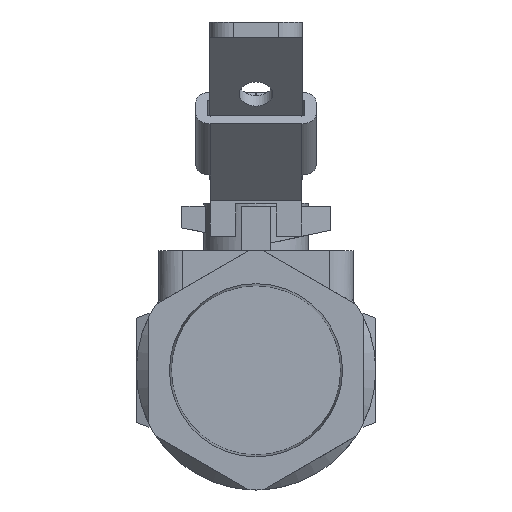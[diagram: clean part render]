
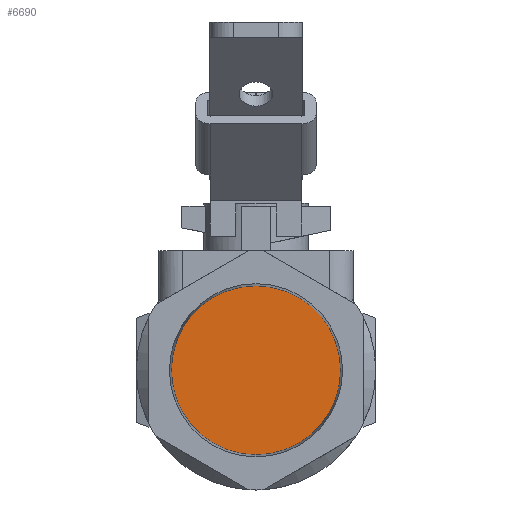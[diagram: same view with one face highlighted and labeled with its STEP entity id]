
A CAD part, left-side view. The second image highlights one B-rep face of the part: STEP entity #6690.
In plain terms, the highlighted free-form (B-spline) face has degree [1, 1] with [2, 2] control points.
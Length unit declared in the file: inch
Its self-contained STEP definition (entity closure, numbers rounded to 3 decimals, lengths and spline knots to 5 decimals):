
#6674=CARTESIAN_POINT('',(0.6809,-8.85601,2.94767));
#6675=CARTESIAN_POINT('',(0.6809,-10.63579,2.94767));
#6676=CARTESIAN_POINT('',(0.6809,-8.85601,1.16789));
#6677=CARTESIAN_POINT('',(0.6809,-10.63579,1.16789));
#6678=B_SPLINE_SURFACE_WITH_KNOTS('',1,1,((#6674,#6676),(#6675,#6677)),.UNSPECIFIED.,.F.,.F.,.U.,(2,2),(2,2),(0.0,1.77978),(0.0,1.77978),.UNSPECIFIED.);
#6679=CARTESIAN_POINT('',(0.6809,-8.85601,2.05778));
#6680=VERTEX_POINT('',#6679);
#6681=CARTESIAN_POINT('',(0.6809,-9.7459,2.05778));
#6682=DIRECTION('',(1.0,0.0,0.0));
#6683=DIRECTION('',(0.0,1.0,0.0));
#6684=AXIS2_PLACEMENT_3D('',#6681,#6682,#6683);
#6685=CIRCLE('',#6684,0.88989);
#6686=EDGE_CURVE('',#6680,#6680,#6685,.T.);
#6687=ORIENTED_EDGE('',*,*,#6686,.F.);
#6688=EDGE_LOOP('',(#6687));
#6689=FACE_OUTER_BOUND('',#6688,.T.);
#6690=ADVANCED_FACE('',(#6689),#6678,.F.);
